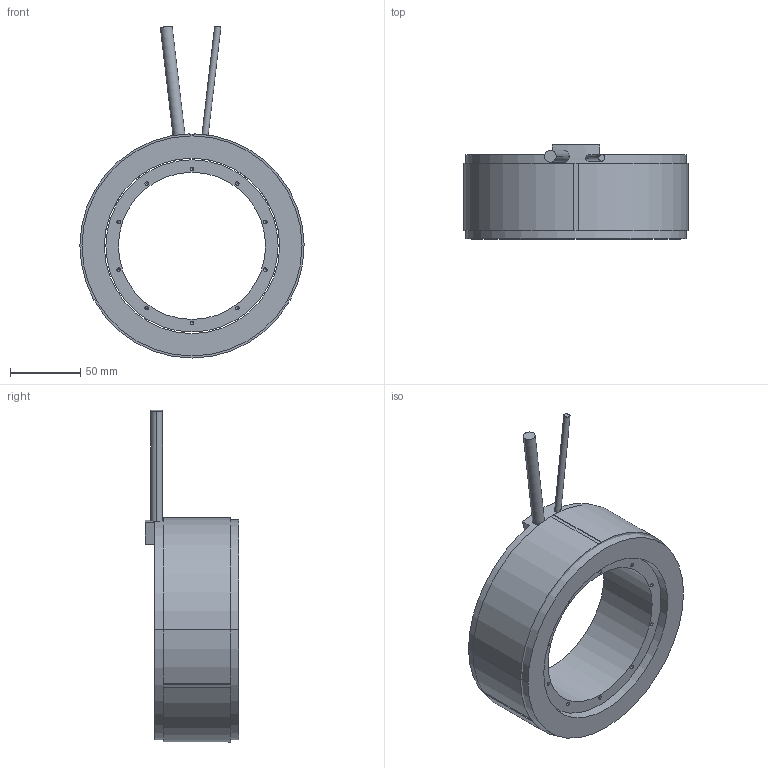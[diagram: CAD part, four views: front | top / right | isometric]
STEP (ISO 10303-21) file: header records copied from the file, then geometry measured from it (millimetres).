
FILE_DESCRIPTION (( 'STEP AP203' ), '1' );
FILE_NAME ('TMX160-60 3D.STEP', '2022-11-23T02:36:16', ( '' ), ( '' ), 'SwSTEP 2.0', 'SolidWorks 2021', '' );
FILE_SCHEMA (( 'CONFIG_CONTROL_DESIGN' ));
Length unit declared in the file: millimetre
Products named in the file (3): TMX160-60 KIT 3D; TM160-60 3D; TMX160-60 3D
Assembly tree (2 placements, depth 2):
  TMX160-60 3D
    TM160-60 3D
    TMX160-60 KIT 3D
Bounding box: 160 x 67 x 236.92 mm (x, y, z)
Volume: 696592.5 mm3; surface area: 167065.5 mm2
Topology: 3 solids, 3 shells, 190 faces, 503 edges, 302 vertices
Faces by surface type: cylinder 119, cone 40, plane 31
Entity records: 6088 total; most frequent: DIRECTION 1081, CARTESIAN_POINT 1078, ORIENTED_EDGE 926, EDGE_CURVE 463, AXIS2_PLACEMENT_3D 431, VERTEX_POINT 302, CIRCLE 236, EDGE_LOOP 223
